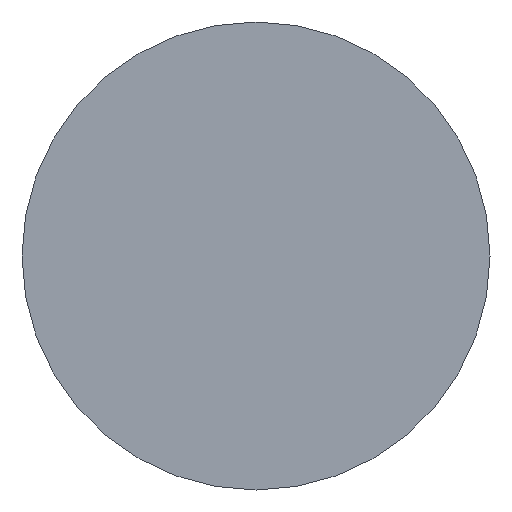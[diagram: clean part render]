
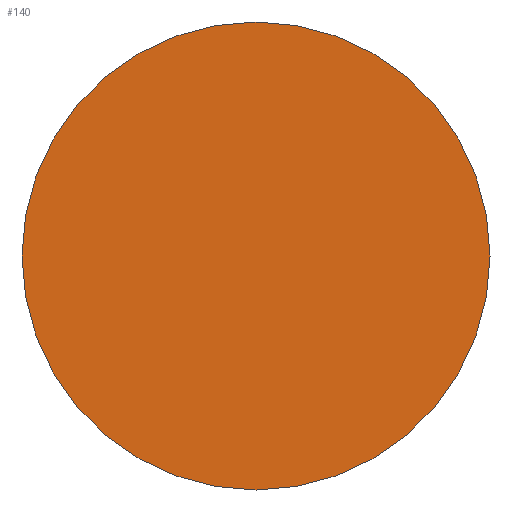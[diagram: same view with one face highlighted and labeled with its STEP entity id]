
A CAD part, front view. The second image highlights one B-rep face of the part: STEP entity #140.
In plain terms, the highlighted planar face has unit normal (0, -1, 0).
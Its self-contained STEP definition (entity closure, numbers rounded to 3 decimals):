
#31 = CYLINDRICAL_SURFACE('',#32,12.4);
#32 = AXIS2_PLACEMENT_3D('',#33,#34,#35);
#33 = CARTESIAN_POINT('',(158.477,-31.,361.469));
#34 = DIRECTION('',(0.,1.,0.));
#35 = DIRECTION('',(0.,-0.,1.));
#56 = VERTEX_POINT('',#57);
#57 = CARTESIAN_POINT('',(158.477,-31.,373.869));
#78 = EDGE_CURVE('',#56,#56,#79,.T.);
#79 = SURFACE_CURVE('',#80,(#85,#92),.PCURVE_S1.);
#80 = CIRCLE('',#81,12.4);
#81 = AXIS2_PLACEMENT_3D('',#82,#83,#84);
#82 = CARTESIAN_POINT('',(158.477,-31.,361.469));
#83 = DIRECTION('',(0.,1.,0.));
#84 = DIRECTION('',(0.,-0.,1.));
#85 = PCURVE('',#31,#86);
#86 = DEFINITIONAL_REPRESENTATION('',(#87),#91);
#87 = LINE('',#88,#89);
#88 = CARTESIAN_POINT('',(0.,0.));
#89 = VECTOR('',#90,1.);
#90 = DIRECTION('',(1.,0.));
#91 = ( GEOMETRIC_REPRESENTATION_CONTEXT(2) 
PARAMETRIC_REPRESENTATION_CONTEXT() REPRESENTATION_CONTEXT('2D SPACE',''
  ) );
#92 = PCURVE('',#93,#98);
#93 = PLANE('',#94);
#94 = AXIS2_PLACEMENT_3D('',#95,#96,#97);
#95 = CARTESIAN_POINT('',(158.477,-31.,361.469));
#96 = DIRECTION('',(0.,1.,0.));
#97 = DIRECTION('',(0.,-0.,1.));
#98 = DEFINITIONAL_REPRESENTATION('',(#99),#103);
#99 = CIRCLE('',#100,12.4);
#100 = AXIS2_PLACEMENT_2D('',#101,#102);
#101 = CARTESIAN_POINT('',(0.,0.));
#102 = DIRECTION('',(1.,0.));
#103 = ( GEOMETRIC_REPRESENTATION_CONTEXT(2) 
PARAMETRIC_REPRESENTATION_CONTEXT() REPRESENTATION_CONTEXT('2D SPACE',''
  ) );
#140 = ADVANCED_FACE('',(#141),#93,.F.);
#141 = FACE_BOUND('',#142,.T.);
#142 = EDGE_LOOP('',(#143));
#143 = ORIENTED_EDGE('',*,*,#78,.F.);
